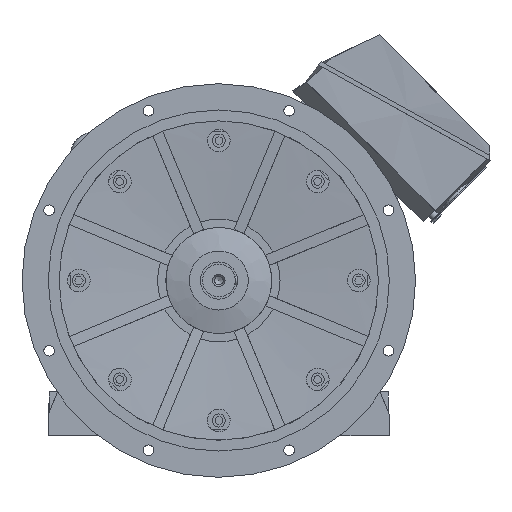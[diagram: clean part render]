
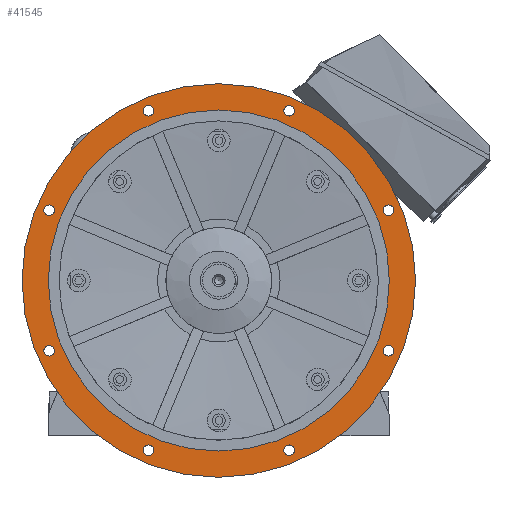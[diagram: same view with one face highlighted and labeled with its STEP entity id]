
A CAD part, left-side view. The second image highlights one B-rep face of the part: STEP entity #41545.
In plain terms, the highlighted planar face has unit normal (-1, 0, 0).
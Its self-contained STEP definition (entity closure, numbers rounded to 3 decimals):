
#867 = CIRCLE ( 'NONE', #60524, 12. ) ;
#1703 = CARTESIAN_POINT ( 'NONE',  ( -110., 160.727, -400.029 ) ) ;
#2337 = CIRCLE ( 'NONE', #71989, 12. ) ;
#2803 = CIRCLE ( 'NONE', #31472, 12. ) ;
#5439 = CIRCLE ( 'NONE', #65272, 390. ) ;
#5884 = DIRECTION ( 'NONE',  ( 0., 0., -1. ) ) ;
#5907 = DIRECTION ( 'NONE',  ( 0., 0., 1. ) ) ;
#5971 = DIRECTION ( 'NONE',  ( 1., 0., 0. ) ) ;
#5988 = CARTESIAN_POINT ( 'NONE',  ( -110., -160.727, -388.029 ) ) ;
#6309 = ORIENTED_EDGE ( 'NONE', *, *, #30177, .F. ) ;
#8775 = EDGE_CURVE ( 'NONE', #31634, #31634, #867, .T. ) ;
#10223 = DIRECTION ( 'NONE',  ( 0., 0., -1. ) ) ;
#10328 = DIRECTION ( 'NONE',  ( 1., 0., 0. ) ) ;
#10414 = CARTESIAN_POINT ( 'NONE',  ( -110., -388.029, 160.727 ) ) ;
#11057 = CARTESIAN_POINT ( 'NONE',  ( -110., 388.029, -160.727 ) ) ;
#11891 = CIRCLE ( 'NONE', #59089, 12. ) ;
#12846 = ORIENTED_EDGE ( 'NONE', *, *, #19899, .T. ) ;
#13322 = CARTESIAN_POINT ( 'NONE',  ( -110., 160.727, 376.029 ) ) ;
#13329 = CIRCLE ( 'NONE', #73910, 12. ) ;
#13602 = CARTESIAN_POINT ( 'NONE',  ( -110., -160.727, 376.029 ) ) ;
#16834 = DIRECTION ( 'NONE',  ( 1., 0., 0. ) ) ;
#17417 = DIRECTION ( 'NONE',  ( 0., 0., -1. ) ) ;
#17849 = CIRCLE ( 'NONE', #67322, 12. ) ;
#19458 = EDGE_CURVE ( 'NONE', #58389, #58389, #13329, .T. ) ;
#19758 = VERTEX_POINT ( 'NONE', #26550 ) ;
#19899 = EDGE_CURVE ( 'NONE', #42305, #42305, #2337, .T. ) ;
#20201 = CARTESIAN_POINT ( 'NONE',  ( -110., -388.029, 148.727 ) ) ;
#22673 = CARTESIAN_POINT ( 'NONE',  ( -110., 388.029, 148.727 ) ) ;
#23107 = DIRECTION ( 'NONE',  ( 0., 0., -1. ) ) ;
#23266 = DIRECTION ( 'NONE',  ( 1., 0., 0. ) ) ;
#23355 = CARTESIAN_POINT ( 'NONE',  ( -110., -160.727, 388.029 ) ) ;
#26550 = CARTESIAN_POINT ( 'NONE',  ( -110., 0., 450. ) ) ;
#26997 = AXIS2_PLACEMENT_3D ( 'NONE', #38089, #37822, #37652 ) ;
#27596 = VERTEX_POINT ( 'NONE', #22673 ) ;
#29178 = EDGE_CURVE ( 'NONE', #52685, #52685, #2803, .T. ) ;
#30177 = EDGE_CURVE ( 'NONE', #19758, #19758, #75105, .T. ) ;
#31472 = AXIS2_PLACEMENT_3D ( 'NONE', #10414, #10328, #10223 ) ;
#31634 = VERTEX_POINT ( 'NONE', #13322 ) ;
#32420 = ORIENTED_EDGE ( 'NONE', *, *, #39081, .T. ) ;
#33374 = FACE_BOUND ( 'NONE', #57172, .T. ) ;
#33462 = FACE_BOUND ( 'NONE', #57978, .T. ) ;
#33535 = FACE_BOUND ( 'NONE', #58957, .T. ) ;
#33644 = FACE_BOUND ( 'NONE', #59014, .T. ) ;
#33676 = CARTESIAN_POINT ( 'NONE',  ( -110., 388.029, -172.727 ) ) ;
#33723 = FACE_BOUND ( 'NONE', #59845, .T. ) ;
#33805 = FACE_BOUND ( 'NONE', #59918, .T. ) ;
#33894 = FACE_BOUND ( 'NONE', #63385, .T. ) ;
#33961 = FACE_BOUND ( 'NONE', #61311, .T. ) ;
#34046 = FACE_OUTER_BOUND ( 'NONE', #67393, .T. ) ;
#34181 = FACE_BOUND ( 'NONE', #60199, .T. ) ;
#37652 = DIRECTION ( 'NONE',  ( 0., 0., 1. ) ) ;
#37822 = DIRECTION ( 'NONE',  ( 1., 0., 0. ) ) ;
#37988 = EDGE_CURVE ( 'NONE', #61206, #61206, #43958, .T. ) ;
#38089 = CARTESIAN_POINT ( 'NONE',  ( -110., 0., 0. ) ) ;
#38953 = DIRECTION ( 'NONE',  ( 0., 0., -1. ) ) ;
#39081 = EDGE_CURVE ( 'NONE', #45111, #45111, #17849, .T. ) ;
#39213 = DIRECTION ( 'NONE',  ( 1., 0., 0. ) ) ;
#39218 = ORIENTED_EDGE ( 'NONE', *, *, #37988, .T. ) ;
#39308 = CARTESIAN_POINT ( 'NONE',  ( -110., 160.727, 388.029 ) ) ;
#39457 = CARTESIAN_POINT ( 'NONE',  ( -110., -388.029, -172.727 ) ) ;
#39567 = EDGE_CURVE ( 'NONE', #75196, #75196, #5439, .T. ) ;
#41545 = ADVANCED_FACE ( 'NONE', ( #33894, #34046, #33961, #34181, #33805, #33723, #33644, #33535, #33462, #33374 ), #43233, .T. ) ;
#42305 = VERTEX_POINT ( 'NONE', #56923 ) ;
#43233 = PLANE ( 'NONE',  #54567 ) ;
#43491 = DIRECTION ( 'NONE',  ( -1., 0., 0. ) ) ;
#43958 = CIRCLE ( 'NONE', #71072, 12. ) ;
#45111 = VERTEX_POINT ( 'NONE', #1703 ) ;
#47816 = ORIENTED_EDGE ( 'NONE', *, *, #19458, .T. ) ;
#47999 = DIRECTION ( 'NONE',  ( 0., 0., -1. ) ) ;
#48096 = DIRECTION ( 'NONE',  ( 1., 0., 0. ) ) ;
#48265 = CARTESIAN_POINT ( 'NONE',  ( -110., -388.029, -160.727 ) ) ;
#49788 = CIRCLE ( 'NONE', #62497, 12. ) ;
#51597 = CARTESIAN_POINT ( 'NONE',  ( -110., 0., 390. ) ) ;
#52685 = VERTEX_POINT ( 'NONE', #20201 ) ;
#53958 = CARTESIAN_POINT ( 'NONE',  ( -110., 388.029, 160.727 ) ) ;
#54524 = DIRECTION ( 'NONE',  ( 1., 0., 0. ) ) ;
#54567 = AXIS2_PLACEMENT_3D ( 'NONE', #79435, #43491, #5907 ) ;
#56192 = ORIENTED_EDGE ( 'NONE', *, *, #8775, .T. ) ;
#56923 = CARTESIAN_POINT ( 'NONE',  ( -110., -160.727, -400.029 ) ) ;
#57172 = EDGE_LOOP ( 'NONE', ( #59376 ) ) ;
#57866 = EDGE_CURVE ( 'NONE', #67819, #67819, #49788, .T. ) ;
#57978 = EDGE_LOOP ( 'NONE', ( #39218 ) ) ;
#58389 = VERTEX_POINT ( 'NONE', #13602 ) ;
#58957 = EDGE_LOOP ( 'NONE', ( #12846 ) ) ;
#59014 = EDGE_LOOP ( 'NONE', ( #32420 ) ) ;
#59089 = AXIS2_PLACEMENT_3D ( 'NONE', #53958, #16834, #60028 ) ;
#59376 = ORIENTED_EDGE ( 'NONE', *, *, #29178, .T. ) ;
#59845 = EDGE_LOOP ( 'NONE', ( #77265 ) ) ;
#59918 = EDGE_LOOP ( 'NONE', ( #64465 ) ) ;
#60028 = DIRECTION ( 'NONE',  ( 0., 0., -1. ) ) ;
#60199 = EDGE_LOOP ( 'NONE', ( #56192 ) ) ;
#60524 = AXIS2_PLACEMENT_3D ( 'NONE', #39308, #39213, #38953 ) ;
#61206 = VERTEX_POINT ( 'NONE', #39457 ) ;
#61311 = EDGE_LOOP ( 'NONE', ( #47816 ) ) ;
#62346 = DIRECTION ( 'NONE',  ( 0., 0., -1. ) ) ;
#62497 = AXIS2_PLACEMENT_3D ( 'NONE', #11057, #54524, #17417 ) ;
#63385 = EDGE_LOOP ( 'NONE', ( #66824 ) ) ;
#64465 = ORIENTED_EDGE ( 'NONE', *, *, #76743, .T. ) ;
#65272 = AXIS2_PLACEMENT_3D ( 'NONE', #69545, #69291, #69232 ) ;
#66824 = ORIENTED_EDGE ( 'NONE', *, *, #39567, .T. ) ;
#67322 = AXIS2_PLACEMENT_3D ( 'NONE', #68171, #67649, #62346 ) ;
#67393 = EDGE_LOOP ( 'NONE', ( #6309 ) ) ;
#67649 = DIRECTION ( 'NONE',  ( 1., 0., 0. ) ) ;
#67819 = VERTEX_POINT ( 'NONE', #33676 ) ;
#68171 = CARTESIAN_POINT ( 'NONE',  ( -110., 160.727, -388.029 ) ) ;
#69232 = DIRECTION ( 'NONE',  ( 0., 0., 1. ) ) ;
#69291 = DIRECTION ( 'NONE',  ( 1., 0., 0. ) ) ;
#69545 = CARTESIAN_POINT ( 'NONE',  ( -110., 0., 0. ) ) ;
#71072 = AXIS2_PLACEMENT_3D ( 'NONE', #48265, #48096, #47999 ) ;
#71989 = AXIS2_PLACEMENT_3D ( 'NONE', #5988, #5971, #5884 ) ;
#73910 = AXIS2_PLACEMENT_3D ( 'NONE', #23355, #23266, #23107 ) ;
#75105 = CIRCLE ( 'NONE', #26997, 450. ) ;
#75196 = VERTEX_POINT ( 'NONE', #51597 ) ;
#76743 = EDGE_CURVE ( 'NONE', #27596, #27596, #11891, .T. ) ;
#77265 = ORIENTED_EDGE ( 'NONE', *, *, #57866, .T. ) ;
#79435 = CARTESIAN_POINT ( 'NONE',  ( -110., 420., 0. ) ) ;
